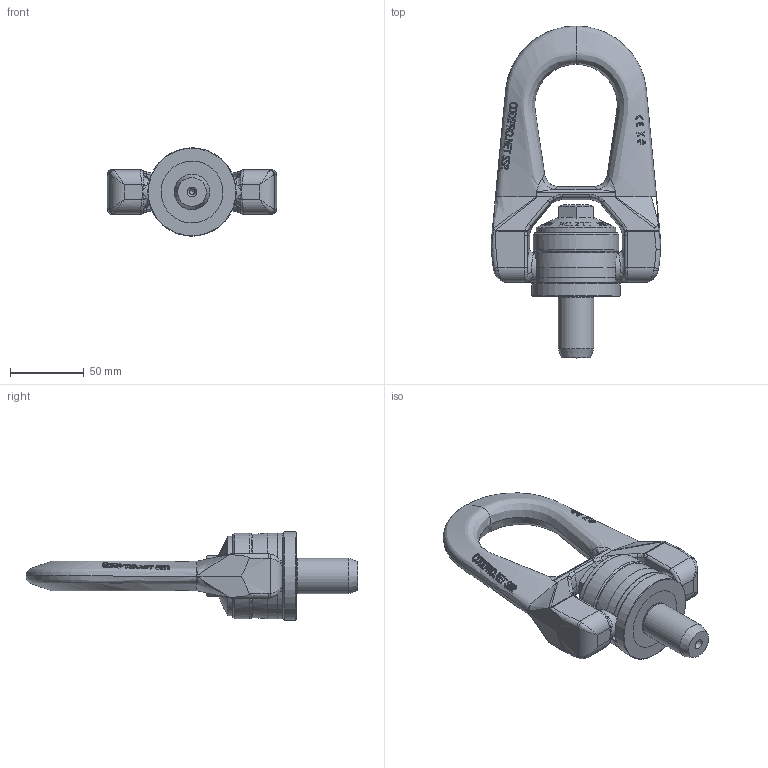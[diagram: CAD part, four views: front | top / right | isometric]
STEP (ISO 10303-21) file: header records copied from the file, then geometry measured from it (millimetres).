
FILE_DESCRIPTION(/* description */ (''),/* implementation_level */ '2;1');
FILE_NAME(/* name */ 'W:\CODIPRO\DOCUMENTS\Plans A NE PAS DIFFUSER !!!\Fichiers STEP\Gamme 2018\Produits NON GRADUP\SS DSR\SS DSR M24.stp',/* time_stamp */ '2017-09-26T13:10:30+02:00',/* author */ ('rklenes'),/* organization */ (''),/* preprocessor_version */ 'ST-DEVELOPER v16.5',/* originating_system */ 'Autodesk Inventor 2017',/* authorisation */ '');
FILE_SCHEMA (('AUTOMOTIVE_DESIGN { 1 0 10303 214 3 1 1 }'));
Products named in the file (5): SS DSR M24; DRM_AF3B; SSB_B3B; DRA_M24X79; DRE_D3M24A
Assembly tree (4 placements, depth 2):
  SS DSR M24
    DRM_AF3B
    SSB_B3B
    DRA_M24X79
    DRE_D3M24A
Bounding box: 115 x 225.25 x 59.98 mm (x, y, z)
Volume: 273984.7 mm3; surface area: 74032.4 mm2
Topology: 3 solids, 4 shells, 782 faces, 2070 edges, 1332 vertices
Faces by surface type: plane 368, bspline 281, cylinder 70, cone 47, torus 15, sphere 1
Full cylindrical faces by diameter (mm): 3.15 x1, 20 x2, 24 x3, 24.2 x1, 33.6 x2, 34 x2, 46 x1, 54 x1, 58 x1, 60 x1
Entity records: 44682 total; most frequent: CARTESIAN_POINT 27496, ORIENTED_EDGE 4022, DIRECTION 2759, EDGE_CURVE 2011, VERTEX_POINT 1320, AXIS2_PLACEMENT_3D 1025, EDGE_LOOP 869, FACE_OUTER_BOUND 781
